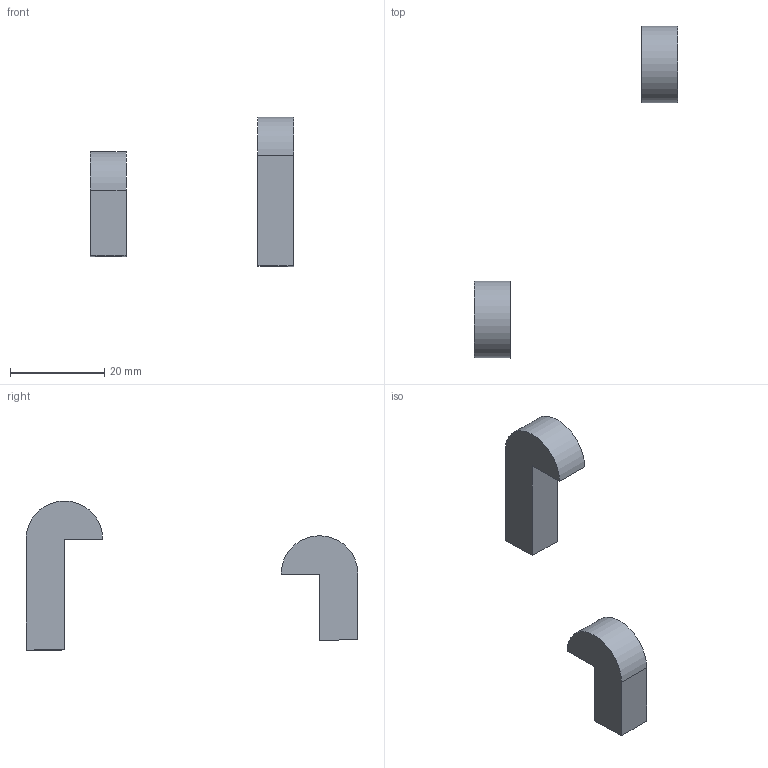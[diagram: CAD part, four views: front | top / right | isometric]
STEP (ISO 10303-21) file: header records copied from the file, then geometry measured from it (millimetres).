
FILE_DESCRIPTION(/* description */ ('','CAx-IF Rec.Pracs.---Representation and Presentation of Product Manufacturing Information (PMI)---4.0---2014-10-13'),/* implementation_level */ '2;1');
FILE_NAME(/* name */ '20thhuckinsventssquareaft.step',/* time_stamp */ '2025-03-21T20:31:43+11:00',/* author */ (''),/* organization */ (''),/* preprocessor_version */ 'ST-DEVELOPER v20',/* originating_system */ 'Autodesk Translation Framework v13.20.0.188',/* authorisation */ '');
FILE_SCHEMA (('AP242_MANAGED_MODEL_BASED_3D_ENGINEERING_MIM_LF { 1 0 10303 442 1 1 4 }'));
Length unit declared in the file: millimetre
Products named in the file (1): HuckinsDeckParts
Bounding box: 43.22 x 70.57 x 31.9 mm (x, y, z)
Volume: 2005.4 mm3; surface area: 3479.8 mm2
Topology: 2 solids, 2 shells, 26 faces, 68 edges, 44 vertices
Faces by surface type: plane 20, cylinder 6
Entity records: 850 total; most frequent: CARTESIAN_POINT 139, DIRECTION 138, ORIENTED_EDGE 136, EDGE_CURVE 68, LINE 52, VECTOR 52, VERTEX_POINT 44, AXIS2_PLACEMENT_3D 43
